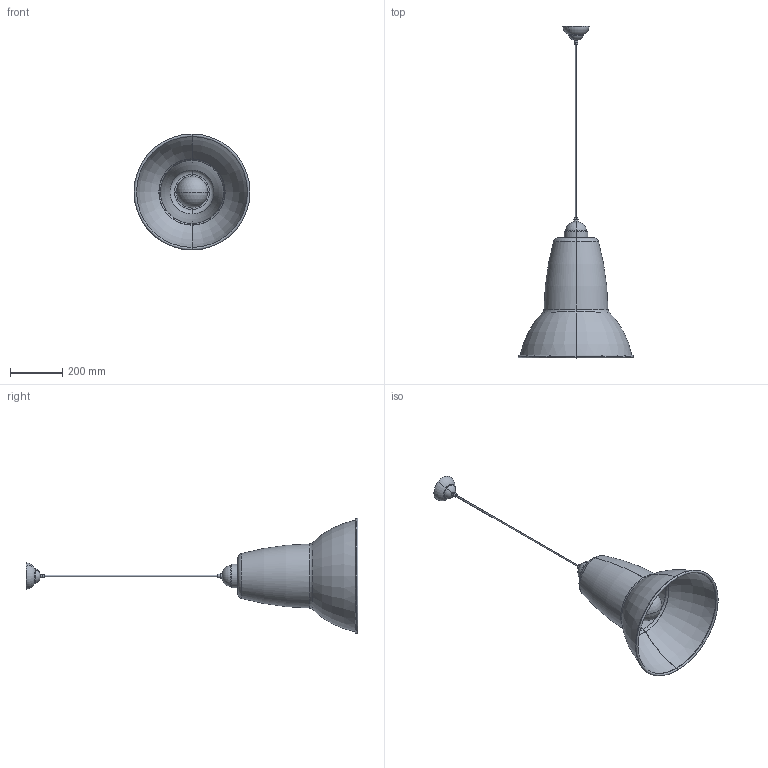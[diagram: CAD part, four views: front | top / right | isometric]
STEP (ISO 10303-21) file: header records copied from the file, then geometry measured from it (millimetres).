
FILE_DESCRIPTION (( 'STEP AP203' ), '1' );
FILE_NAME ('Original 1227 Giant Pendant_01.STEP', '2017-05-11T14:27:27', ( '' ), ( '' ), 'SwSTEP 2.0', 'SolidWorks 2015', '' );
FILE_SCHEMA (( 'CONFIG_CONTROL_DESIGN' ));
Length unit declared in the file: millimetre
Products named in the file (1): Original 1227 Giant Pendant_01
Bounding box: 443.5 x 1270.35 x 443.5 mm (x, y, z)
Volume: 2026891 mm3; surface area: 999456 mm2
Topology: 1 solids, 1 shells, 86 faces, 201 edges, 120 vertices
Faces by surface type: torus 38, cylinder 36, plane 6, cone 4, sphere 2
Entity records: 2593 total; most frequent: DIRECTION 526, CARTESIAN_POINT 400, ORIENTED_EDGE 392, AXIS2_PLACEMENT_3D 243, EDGE_CURVE 196, CIRCLE 156, VERTEX_POINT 117, EDGE_LOOP 115
